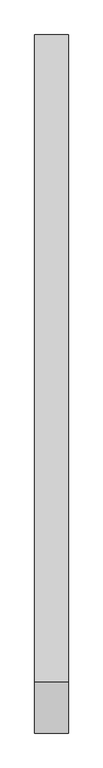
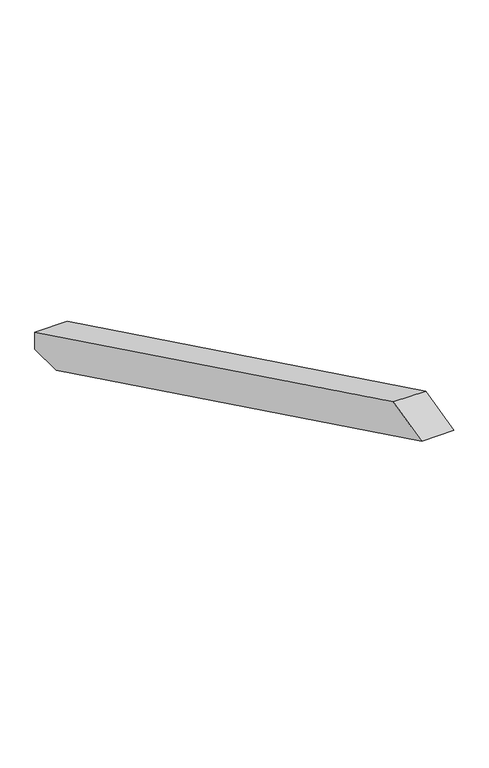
"""IFC4 building model written with IfcOpenShell, lengths in millimetres: proxy geometry, Modelos genéricos 96 : Modelos genéricos 16."""

from ifc_helpers import new_model, si_unit, frame, origin, place, context, project, spatial, polyline, outline, extrude, source, transform, mapped, element, save


def generic_models_2129c80e(model_context):
    return source(origin(), model_context, "Body", "SweptSolid", [
        extrude(outline(polyline([(723.3927505, 3756.8218964), (1878.6238165, 3193.3780582), (1878.6238165, 3160.0), (1810.1886555, 3160.0), (632.8220197, 3734.240077), (723.3927505, 3756.8218964)])), frame((1923.4472467, 0.0, 0.0), z_axis=(1.0, 0.0, 0.0), x_axis=(0.0, 1.0, 0.0)), (0.0, 0.0, 1.0), 60.0),
    ])


if __name__ == "__main__":
    model = new_model("IFC4")
    model_context = context("Model", 3, world=origin())
    ifc_project = project(units=[si_unit("LENGTHUNIT", "METRE", prefix="MILLI")], contexts=[model_context])
    site = spatial("IfcSite", under=ifc_project)
    building = spatial("IfcBuilding", under=site)
    placement = place(None, origin())
    generic_models_shape = generic_models_2129c80e(model_context)
    element("IfcBuildingElementProxy", 1, Name="Modelos genéricos 96 : Modelos genéricos 16", ObjectType="Modelos genéricos 96 : Modelos genéricos 16", at=placement, inside=building, context=model_context, shape_type="MappedRepresentation", body=[
        mapped(generic_models_shape, transform((0.0, 0.0, 0.0), x_axis=(1.0, 0.0, 0.0), y_axis=(0.0, 1.0, 0.0), z_axis=(0.0, 0.0, 1.0))),
    ])
    save(model, "model.ifc")
